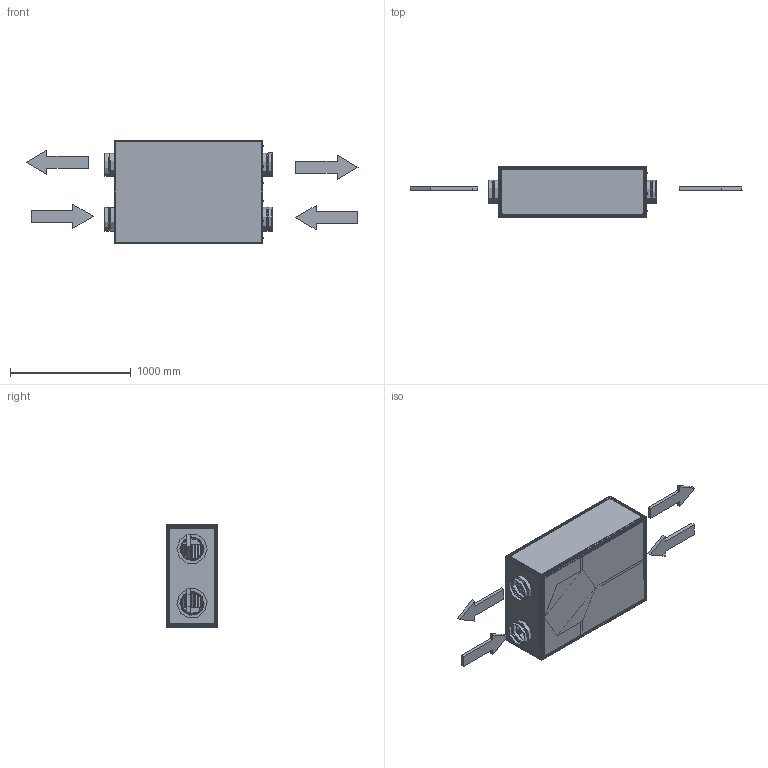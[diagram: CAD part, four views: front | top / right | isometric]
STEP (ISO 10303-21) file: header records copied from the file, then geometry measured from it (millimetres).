
FILE_DESCRIPTION(/* description */ (''),/* implementation_level */ '2;1');
FILE_NAME(/* name */ 'C:\Users\i911900\Desktop\inventor\lVMC_ENG\STEP\vmc_600m3.stp',/* time_stamp */ '2022-02-06T11:57:20+01:00',/* author */ ('i911900'),/* organization */ (''),/* preprocessor_version */ 'ST-DEVELOPER v18.1',/* originating_system */ 'Autodesk Inventor 2022',/* authorisation */ '');
FILE_SCHEMA (('AUTOMOTIVE_DESIGN { 1 0 10303 214 3 1 1 }'));
Products named in the file (44): vmc_600m3; Frame 1643974651884; Skeleton 1643974651885; t-slot-30x30_ldb3; t-slot-30x30_ldb3_1; t-slot-30x30_ldb3_2; t-slot-30x30_ldb3_3; t-slot-30x30_ldb3_4; t-slot-30x30_ldb3_5; t-slot-30x30_ldb3_6; t-slot-30x30_ldb3_7; t-slot-30x30_ldb3_8; t-slot-30x30_ldb3_9; t-slot-30x30_ldb3_10; t-slot-30x30_ldb3_11; lastra_A; lastra_B; lastra_c; tubo_200; scambiatore; separatori_scambiatore; ViF Fan 330; ViF Fan 330_2; Cover; Cover Geometry; Pattern; Din6x10_Hexagon; Din6x10_Hexagon_1; Din6x10_Hexagon_2; Din6x10_Hexagon_3; Din6x10_Hexagon Geometry; Nut; Vasher; Net; Motor; Motor Geometry; Fan; Fan Geometry; Pattern2; Component1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
Assembly tree (65 placements, depth 6):
  vmc_600m3
    Frame 1643974651884
      Skeleton 1643974651885
      t-slot-30x30_ldb3
      t-slot-30x30_ldb3_1
      t-slot-30x30_ldb3_2
      t-slot-30x30_ldb3_3
      t-slot-30x30_ldb3_4
      t-slot-30x30_ldb3_5
      t-slot-30x30_ldb3_6
      t-slot-30x30_ldb3_7
      t-slot-30x30_ldb3_8
      t-slot-30x30_ldb3_9
      t-slot-30x30_ldb3_10
      t-slot-30x30_ldb3_11
    lastra_A  x2
    lastra_B  x2
    lastra_c  x2
    tubo_200  x4
    scambiatore
    separatori_scambiatore
    ViF Fan 330
      Cover
        Cover Geometry
        Pattern
          Din6x10_Hexagon
            Din6x10_Hexagon Geometry
            Nut
            Vasher
          Din6x10_Hexagon_1
            Din6x10_Hexagon Geometry
            Nut
            Vasher
          Din6x10_Hexagon_2
            Din6x10_Hexagon Geometry
            Nut
            Vasher
          Din6x10_Hexagon_3
            Din6x10_Hexagon Geometry
            Nut
            Vasher
      Net
      Motor
        Motor Geometry
        Fan
          Fan Geometry
          Pattern2
            Component1  x5
    ViF Fan 330_2
      Cover
        Cover Geometry
        Pattern
          Din6x10_Hexagon
            Din6x10_Hexagon Geometry
            Nut
            Vasher
          Din6x10_Hexagon_1
            Din6x10_Hexagon Geometry
            Nut
            Vasher
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Bounding box: 2749.22 x 429 x 849 mm (x, y, z)
Volume: 72130127 mm3; surface area: 25305497.2 mm2
Topology: 74 solids, 74 shells, 3366 faces, 9975 edges, 6506 vertices
Faces by surface type: plane 1972, cylinder 1068, cone 140, torus 108, bspline 78
Full cylindrical faces by diameter (mm): 3 x16, 4 x2, 5.28 x2, 5.36 x8, 5.4 x8, 5.632 x2, 6 x72, 6.2 x8, 8 x10, 13.96 x8, 48.75 x2, 50.566 x2, 57.2 x4, 190 x8, 200 x12, 238 x2, 242 x2, 250 x4, 328 x2, 330 x2
Entity records: 98080 total; most frequent: CARTESIAN_POINT 23753, ORIENTED_EDGE 15688, DIRECTION 15154, EDGE_CURVE 7844, LINE 5516, VECTOR 5516, VERTEX_POINT 5116, AXIS2_PLACEMENT_3D 4819
